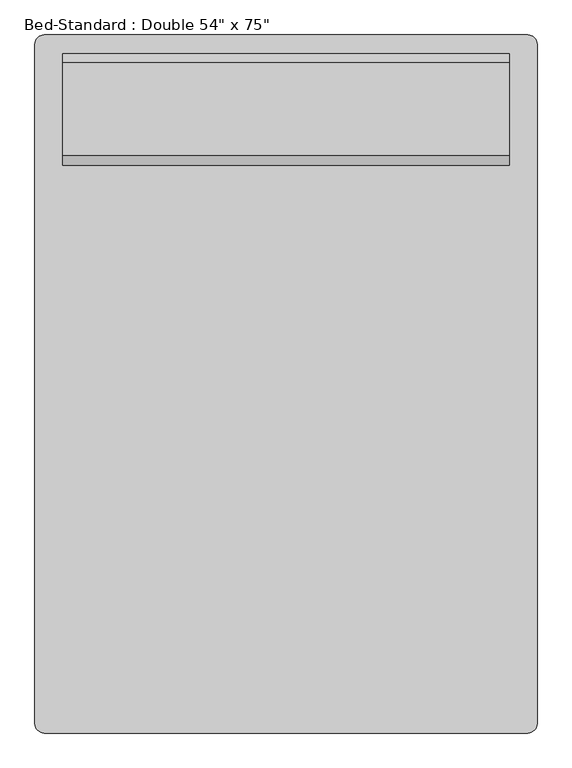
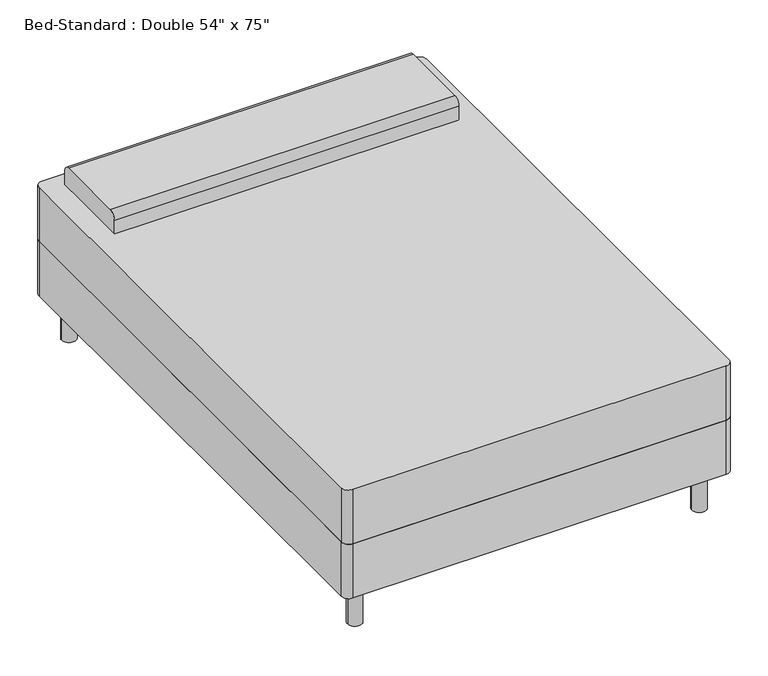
"""IFC4 building model written with IfcOpenShell, lengths in millimetres: furniture geometry."""

import ifcopenshell
import ifcopenshell.guid

model = None  # the IFC model being written
_history = None  # IfcOwnerHistory: only IFC2X3 demands one
_inside = {}  # id of a spatial element -> (the spatial element, [elements in it])
_under = {}  # id of a project, library or spatial element -> (it, [spatial elements below it])
_declared = {}  # id of a project -> (the project, [libraries it declares])
_typed = {}  # id of a type object -> (the type object, [elements of that type])
_made_of = {}  # id of a material, layer set ... -> (it, [elements and type objects made of it])


def new_model(schema):
    """Start an empty IFC model of exactly this schema.

    Asked for "IFC4X3", IfcOpenShell would pick the latest addendum, in which some entities
    have other attributes; the version numbers below select the first issue.
    IFC2X3 requires an IfcOwnerHistory on every rooted entity: one is made here for all.
    """
    global model, _history
    if schema == "IFC4X3":
        model = ifcopenshell.file(schema_version=(4, 3, 0, 0))
    else:
        model = ifcopenshell.file(schema=schema)
    _inside.clear()
    _under.clear()
    _declared.clear()
    _typed.clear()
    _made_of.clear()
    _history = None
    if model.schema == "IFC2X3":
        org = make("IfcOrganization", Name="unknown")
        user = make(
            "IfcPersonAndOrganization",
            ThePerson=make("IfcPerson", FamilyName="unknown"),
            TheOrganization=org,
        )
        app = make(
            "IfcApplication",
            ApplicationDeveloper=org,
            Version="unknown",
            ApplicationFullName="unknown",
            ApplicationIdentifier="unknown",
        )
        _history = make(
            "IfcOwnerHistory",
            OwningUser=user,
            OwningApplication=app,
            ChangeAction="ADDED",
            CreationDate=0,
        )
    return model


def make(cls, **values):
    """One entity of the class cls with the attributes given. An attribute that is None is left unset."""
    return model.create_entity(
        cls, **{name: value for name, value in values.items() if value is not None}
    )


def rooted(cls, **values):
    """An entity with a GlobalId (a new one), such as an element, a storey or a relation."""
    return make(cls, GlobalId=ifcopenshell.guid.new(), OwnerHistory=_history, **values)


def si_unit(unit_type, name, prefix=None):
    """IfcSIUnit, for example si_unit("LENGTHUNIT", "METRE", prefix="MILLI")."""
    return make("IfcSIUnit", UnitType=unit_type, Prefix=prefix, Name=name)


def assignment(units):
    """IfcUnitAssignment: the units of a project."""
    return None if units is None else make("IfcUnitAssignment", Units=units)


def point(xyz):
    """IfcCartesianPoint."""
    return None if xyz is None else make("IfcCartesianPoint", Coordinates=xyz)


def direction(xyz):
    """IfcDirection."""
    return None if xyz is None else make("IfcDirection", DirectionRatios=xyz)


def frame(location, z_axis=None, x_axis=None):
    """IfcAxis2Placement3D, a coordinate frame: its origin and axes. An axis left out is left unset."""
    return make(
        "IfcAxis2Placement3D",
        Location=point(location),
        Axis=direction(z_axis),
        RefDirection=direction(x_axis),
    )


def frame_2d(location, x_axis=None):
    """IfcAxis2Placement2D, a coordinate frame in the plane: its origin and x axis."""
    return make(
        "IfcAxis2Placement2D", Location=point(location), RefDirection=direction(x_axis)
    )


def origin():
    """The frame at (0, 0, 0) with its axes left unset."""
    return frame((0.0, 0.0, 0.0))


def origin_with_axes():
    """The frame at (0, 0, 0) with the z axis (0, 0, 1) and the x axis (1, 0, 0) written out."""
    return frame((0.0, 0.0, 0.0), z_axis=(0.0, 0.0, 1.0), x_axis=(1.0, 0.0, 0.0))


def place(relative_to, where):
    """IfcLocalPlacement: puts the frame where relative to a parent placement (None: the world)."""
    return make(
        "IfcLocalPlacement", PlacementRelTo=relative_to, RelativePlacement=where
    )


def context(
    kind, dimensions, precision=None, world=None, true_north=None, identifier=None
):
    """IfcGeometricRepresentationContext, for example the 3D "Model" context."""
    return make(
        "IfcGeometricRepresentationContext",
        ContextIdentifier=identifier,
        ContextType=kind,
        CoordinateSpaceDimension=dimensions,
        Precision=precision,
        WorldCoordinateSystem=world,
        TrueNorth=true_north,
    )


def project(units=None, contexts=None):
    """IfcProject with its units and contexts."""
    return rooted(
        "IfcProject",
        Name="project",
        RepresentationContexts=contexts,
        UnitsInContext=assignment(units),
    )


def spatial(cls, under=None, at=None, **own):
    """A site, building, storey or space (cls), placed at a placement, below another one or the project."""
    s = rooted(cls, ObjectPlacement=at, **own)
    if under is not None:
        _under.setdefault(under.id(), (under, []))[1].append(s)
    return s


def polyline(points):
    """IfcPolyline through the points."""
    return make("IfcPolyline", Points=[point(p) for p in points])


def circle_curve(where, radius):
    """IfcCircle in the frame where."""
    return make("IfcCircle", Position=where, Radius=radius)


def trimmed(basis, trim1, trim2, sense, master):
    """IfcTrimmedCurve: the piece of a basis curve between two trims."""
    return make(
        "IfcTrimmedCurve",
        BasisCurve=basis,
        Trim1=trim1,
        Trim2=trim2,
        SenseAgreement=sense,
        MasterRepresentation=master,
    )


def segment(curve, same_sense, transition):
    """IfcCompositeCurveSegment."""
    return make(
        "IfcCompositeCurveSegment",
        Transition=transition,
        SameSense=same_sense,
        ParentCurve=curve,
    )


def composite_curve(segments, self_intersect=None):
    """IfcCompositeCurve: segments joined end to end."""
    return make("IfcCompositeCurve", Segments=segments, SelfIntersect=self_intersect)


def outline(outer, holes=None, kind="AREA"):
    """IfcArbitraryClosedProfileDef: a profile drawn as a closed curve; with holes, ...WithVoids."""
    if holes is None:
        return make("IfcArbitraryClosedProfileDef", ProfileType=kind, OuterCurve=outer)
    return make(
        "IfcArbitraryProfileDefWithVoids",
        ProfileType=kind,
        OuterCurve=outer,
        InnerCurves=holes,
    )


def extrude(swept, where, along, depth):
    """IfcExtrudedAreaSolid: the profile swept, set in the frame where, extruded along a direction by depth."""
    return make(
        "IfcExtrudedAreaSolid",
        SweptArea=swept,
        Position=where,
        ExtrudedDirection=direction(along),
        Depth=depth,
    )


def shape(context_of_items, identifier, shape_type, items):
    """IfcShapeRepresentation: the items that make up one representation, for example the "Body"."""
    return make(
        "IfcShapeRepresentation",
        ContextOfItems=context_of_items,
        RepresentationIdentifier=identifier,
        RepresentationType=shape_type,
        Items=items,
    )


def source(mapping_origin, context_of_items, identifier, shape_type, items):
    """IfcRepresentationMap: a shape defined once, which mapped items show again and again."""
    return make(
        "IfcRepresentationMap",
        MappingOrigin=mapping_origin,
        MappedRepresentation=shape(context_of_items, identifier, shape_type, items),
    )


def transform(
    local_origin,
    x_axis=None,
    y_axis=None,
    z_axis=None,
    scale=None,
    scale2=None,
    scale3=None,
    uniform=True,
):
    """IfcCartesianTransformationOperator3D, or its non-uniform kind. x_axis, y_axis, z_axis: its Axis1, 2, 3."""
    if uniform:
        return make(
            "IfcCartesianTransformationOperator3D",
            Axis1=direction(x_axis),
            Axis2=direction(y_axis),
            LocalOrigin=point(local_origin),
            Scale=scale,
            Axis3=direction(z_axis),
        )
    return make(
        "IfcCartesianTransformationOperator3DnonUniform",
        Axis1=direction(x_axis),
        Axis2=direction(y_axis),
        LocalOrigin=point(local_origin),
        Scale=scale,
        Axis3=direction(z_axis),
        Scale2=scale2,
        Scale3=scale3,
    )


def mapped(mapping_source, mapping_target):
    """IfcMappedItem: shows the shape of a source again, moved by a transform."""
    return make(
        "IfcMappedItem", MappingSource=mapping_source, MappingTarget=mapping_target
    )


def made_of(thing, what):
    """Note that an element or type object is made of a material, layer set ...; save() writes the relation."""
    if what is not None:
        _made_of.setdefault(what.id(), (what, []))[1].append(thing)
    return thing


def element(
    cls,
    number,
    at=None,
    inside=None,
    cuts=None,
    type_object=None,
    material=None,
    context=None,
    identifier="Body",
    shape_type=None,
    held_by="IfcProductDefinitionShape",
    body=None,
    shapes=None,
    **own,
):
    """One element of the class cls, such as IfcWall. Its Tag is "e" and its number.

    at: its placement. inside: the storey or other place that contains it. cuts: it is an
    opening in that element (IfcRelVoidsElement). A single representation is given by context,
    identifier, shape_type and body (its items); several are given by shapes. held_by: the class
    of the entity that holds the representations. save() writes the other relations.
    """
    e = rooted(cls, Tag="e%d" % number, ObjectPlacement=at, **own)
    if body is not None:
        shapes = [shape(context, identifier, shape_type, body)]
    if shapes is not None:
        e.Representation = make(held_by, Representations=shapes)
    if inside is not None:
        _inside.setdefault(inside.id(), (inside, []))[1].append(e)
    if cuts is not None:
        rooted(
            "IfcRelVoidsElement", RelatingBuildingElement=cuts, RelatedOpeningElement=e
        )
    if type_object is not None:
        _typed.setdefault(type_object.id(), (type_object, []))[1].append(e)
    return made_of(e, material)


def aggregate(whole, parts):
    """IfcRelAggregates: a whole, such as a stair, and the parts it consists of."""
    return rooted("IfcRelAggregates", RelatingObject=whole, RelatedObjects=parts)


def save(model, path):
    """Write the relations noted so far, then the file.

    IfcRelAggregates (storeys below a building ...), IfcRelContainedInSpatialStructure (elements
    in a storey), IfcRelDefinesByType, IfcRelAssociatesMaterial and IfcRelDeclares: one each for
    every whole, place, type object, material and project.
    """
    for whole, parts in _under.values():
        aggregate(whole, parts)
    for where, things in _inside.values():
        rooted(
            "IfcRelContainedInSpatialStructure",
            RelatedElements=things,
            RelatingStructure=where,
        )
    for kind, things in _typed.values():
        rooted("IfcRelDefinesByType", RelatedObjects=things, RelatingType=kind)
    for what, things in _made_of.values():
        rooted("IfcRelAssociatesMaterial", RelatedObjects=things, RelatingMaterial=what)
    for by, libraries in _declared.values():
        rooted("IfcRelDeclares", RelatingContext=by, RelatedDefinitions=libraries)
    model.write(path)


def furniture_0253826f(model_context):
    return source(origin(), model_context, "Body", "SweptSolid", [
        extrude(outline(composite_curve([segment(polyline([(-414.3114754, -972.695082), (-414.3114754, 881.504918)]), True, "CONTINUOUS"), segment(trimmed(circle_curve(frame_2d((-388.9114754, 881.504918)), 25.4), [point((-414.3114754, 881.504918))], [point((-388.9114754, 906.904918))], False, "CARTESIAN"), True, "CONTINUOUS"), segment(polyline([(-388.9114754, 906.904918), (931.8885246, 906.904918)]), True, "CONTINUOUS"), segment(trimmed(circle_curve(frame_2d((931.8885246, 881.504918)), 25.4), [point((931.8885246, 906.904918))], [point((957.2885246, 881.504918))], False, "CARTESIAN"), True, "CONTINUOUS"), segment(polyline([(957.2885246, 881.504918), (957.2885246, -972.695082)]), True, "CONTINUOUS"), segment(trimmed(circle_curve(frame_2d((931.8885246, -972.695082)), 25.4), [point((957.2885246, -972.695082))], [point((931.8885246, -998.095082))], False, "CARTESIAN"), True, "CONTINUOUS"), segment(polyline([(931.8885246, -998.095082), (-388.9114754, -998.095082)]), True, "CONTINUOUS"), segment(trimmed(circle_curve(frame_2d((-388.9114754, -972.695082)), 25.4), [point((-388.9114754, -998.095082))], [point((-414.3114754, -972.695082))], False, "CARTESIAN"), True, "CONTINUOUS")], self_intersect=False)), frame((0.0, 0.0, 152.4), z_axis=(0.0, 0.0, 1.0), x_axis=(1.0, 0.0, 0.0)), (0.0, 0.0, 1.0), 203.2),
        extrude(outline(composite_curve([segment(polyline([(551.304918, 558.8), (551.304918, 609.6)]), True, "CONTINUOUS"), segment(trimmed(circle_curve(frame_2d((576.704918, 609.6)), 25.4), [point((551.304918, 609.6))], [point((576.704918, 635.0))], False, "CARTESIAN"), True, "CONTINUOUS"), segment(polyline([(576.704918, 635.0), (830.704918, 635.0)]), True, "CONTINUOUS"), segment(trimmed(circle_curve(frame_2d((830.704918, 609.6)), 25.4), [point((830.704918, 635.0))], [point((856.104918, 609.6))], False, "CARTESIAN"), True, "CONTINUOUS"), segment(polyline([(856.104918, 609.6), (856.104918, 558.8), (551.304918, 558.8)]), True, "CONTINUOUS")], self_intersect=False)), frame((-338.1114754, 0.0, 0.0), z_axis=(1.0, 0.0, 0.0), x_axis=(0.0, 1.0, 0.0)), (0.0, 0.0, 1.0), 1219.2),
        extrude(outline(composite_curve([segment(trimmed(circle_curve(frame_2d((-338.1114754, 830.704918)), 25.4), [point((-363.5114754, 830.704918))], [point((-312.7114754, 830.704918))], False, "CARTESIAN"), True, "CONTINUOUS"), segment(trimmed(circle_curve(frame_2d((-338.1114754, 830.704918)), 25.4), [point((-312.7114754, 830.704918))], [point((-363.5114754, 830.704918))], False, "CARTESIAN"), True, "CONTINUOUS")], self_intersect=False)), origin_with_axes(), (0.0, 0.0, 1.0), 152.4),
        extrude(outline(composite_curve([segment(trimmed(circle_curve(frame_2d((881.0885246, 830.704918)), 25.4), [point((855.6885246, 830.704918))], [point((906.4885246, 830.704918))], False, "CARTESIAN"), True, "CONTINUOUS"), segment(trimmed(circle_curve(frame_2d((881.0885246, 830.704918)), 25.4), [point((906.4885246, 830.704918))], [point((855.6885246, 830.704918))], False, "CARTESIAN"), True, "CONTINUOUS")], self_intersect=False)), origin_with_axes(), (0.0, 0.0, 1.0), 152.4),
        extrude(outline(composite_curve([segment(trimmed(circle_curve(frame_2d((881.0885246, -921.895082)), 25.4), [point((855.6885246, -921.895082))], [point((906.4885246, -921.895082))], False, "CARTESIAN"), True, "CONTINUOUS"), segment(trimmed(circle_curve(frame_2d((881.0885246, -921.895082)), 25.4), [point((906.4885246, -921.895082))], [point((855.6885246, -921.895082))], False, "CARTESIAN"), True, "CONTINUOUS")], self_intersect=False)), origin_with_axes(), (0.0, 0.0, 1.0), 152.4),
        extrude(outline(composite_curve([segment(trimmed(circle_curve(frame_2d((-338.1114754, -921.895082)), 25.4), [point((-363.5114754, -921.895082))], [point((-312.7114754, -921.895082))], False, "CARTESIAN"), True, "CONTINUOUS"), segment(trimmed(circle_curve(frame_2d((-338.1114754, -921.895082)), 25.4), [point((-312.7114754, -921.895082))], [point((-363.5114754, -921.895082))], False, "CARTESIAN"), True, "CONTINUOUS")], self_intersect=False)), origin_with_axes(), (0.0, 0.0, 1.0), 152.4),
        extrude(outline(composite_curve([segment(polyline([(-388.9114754, 906.904918), (931.8885246, 906.904918)]), True, "CONTINUOUS"), segment(trimmed(circle_curve(frame_2d((931.8885246, 881.504918)), 25.4), [point((931.8885246, 906.904918))], [point((957.2885246, 881.504918))], False, "CARTESIAN"), True, "CONTINUOUS"), segment(polyline([(957.2885246, 881.504918), (957.2885246, -972.695082)]), True, "CONTINUOUS"), segment(trimmed(circle_curve(frame_2d((931.8885246, -972.695082)), 25.4), [point((957.2885246, -972.695082))], [point((931.8885246, -998.095082))], False, "CARTESIAN"), True, "CONTINUOUS"), segment(polyline([(931.8885246, -998.095082), (-388.9114754, -998.095082)]), True, "CONTINUOUS"), segment(trimmed(circle_curve(frame_2d((-388.9114754, -972.695082)), 25.4), [point((-388.9114754, -998.095082))], [point((-414.3114754, -972.695082))], False, "CARTESIAN"), True, "CONTINUOUS"), segment(polyline([(-414.3114754, -972.695082), (-414.3114754, 881.504918)]), True, "CONTINUOUS"), segment(trimmed(circle_curve(frame_2d((-388.9114754, 881.504918)), 25.4), [point((-414.3114754, 881.504918))], [point((-388.9114754, 906.904918))], False, "CARTESIAN"), True, "CONTINUOUS")], self_intersect=False)), frame((0.0, 0.0, 355.6), z_axis=(0.0, 0.0, 1.0), x_axis=(1.0, 0.0, 0.0)), (0.0, 0.0, 1.0), 203.2),
    ])


if __name__ == "__main__":
    model = new_model("IFC4")
    model_context = context("Model", 3, world=origin())
    ifc_project = project(units=[si_unit("LENGTHUNIT", "METRE", prefix="MILLI")], contexts=[model_context])
    site = spatial("IfcSite", under=ifc_project)
    building = spatial("IfcBuilding", under=site)
    placement = place(None, origin())
    furniture_shape = furniture_0253826f(model_context)
    element("IfcFurniture", 1, ObjectType="Bed-Standard : Double 54\" x 75\"", at=placement, inside=building, context=model_context, shape_type="MappedRepresentation", body=[
        mapped(furniture_shape, transform((0.0, 0.0, 0.0), x_axis=(1.0, 0.0, 0.0), y_axis=(0.0, 1.0, 0.0), z_axis=(0.0, 0.0, 1.0))),
    ])
    save(model, "model.ifc")
